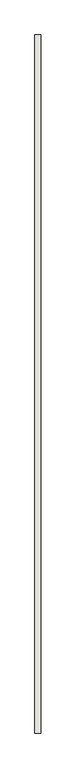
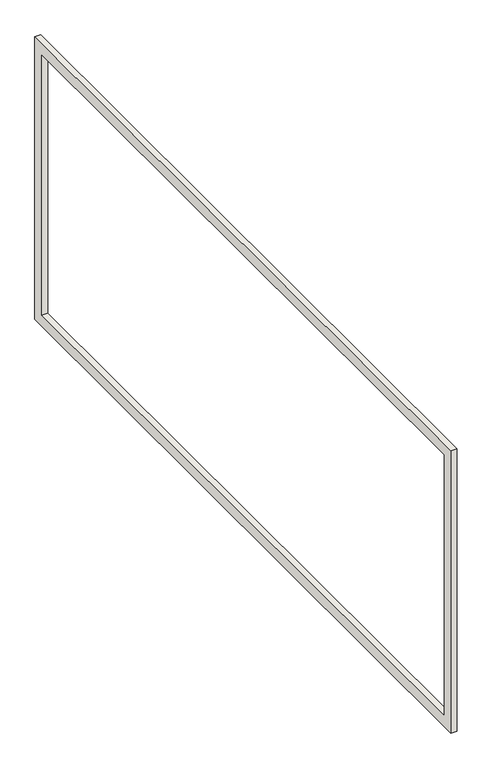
"""IFC4 building model written with IfcOpenShell, lengths in millimetres: wall geometry, 字框 : 字框."""

from ifc_helpers import new_model, si_unit, frame, origin, place, context, project, spatial, polyline, outline, extrude, source, transform, mapped, element, save


def wall_0a2ae367(model_context):
    return source(origin(), model_context, "Body", "SweptSolid", [
        extrude(outline(polyline([(263.016625, 500.0), (263.016625, 0.0), (-943.983375, 0.0), (-943.983375, 500.0), (263.016625, 500.0)]), holes=[polyline([(243.016625, 480.0), (-923.983375, 480.0), (-923.983375, 20.0), (243.016625, 20.0), (243.016625, 480.0)])]), frame((3009.1580578, 0.0, 0.0), z_axis=(1.0, 0.0, 0.0), x_axis=(0.0, 1.0, 0.0)), (0.0, 0.0, 1.0), 10.0),
    ])


if __name__ == "__main__":
    model = new_model("IFC4")
    model_context = context("Model", 3, world=origin())
    ifc_project = project(units=[si_unit("LENGTHUNIT", "METRE", prefix="MILLI")], contexts=[model_context])
    site = spatial("IfcSite", under=ifc_project)
    building = spatial("IfcBuilding", under=site)
    placement = place(None, origin())
    wall_shape = wall_0a2ae367(model_context)
    element("IfcWall", 1, ObjectType="字框 : 字框", at=placement, inside=building, context=model_context, shape_type="MappedRepresentation", body=[
        mapped(wall_shape, transform((0.0, 0.0, 0.0), x_axis=(1.0, 0.0, 0.0), y_axis=(0.0, 1.0, 0.0), z_axis=(0.0, 0.0, 1.0))),
    ])
    save(model, "model.ifc")
